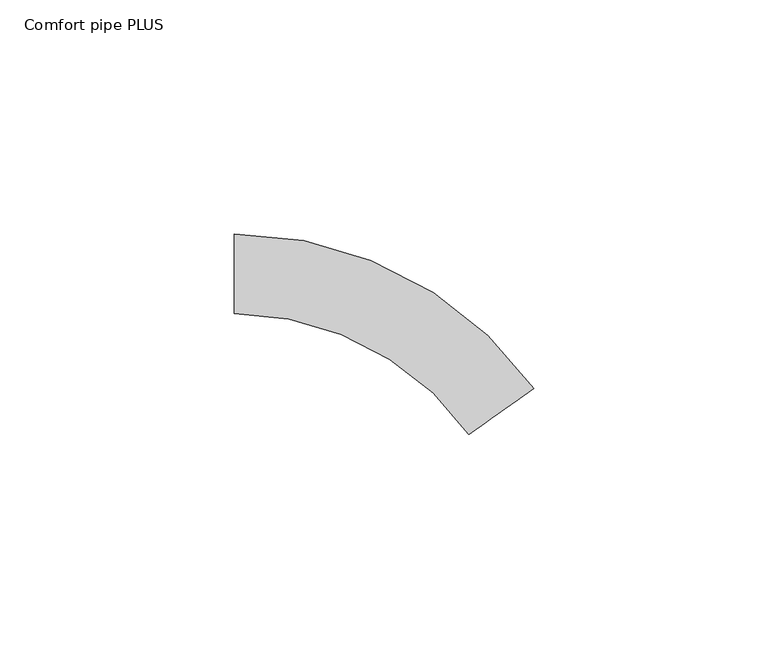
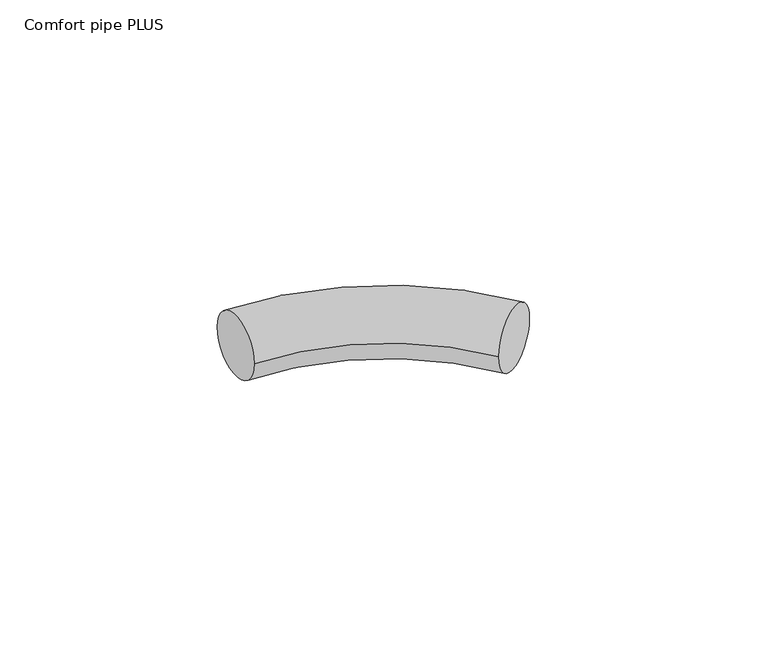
"""IFC4 building model written with IfcOpenShell, lengths in millimetres: pipe fitting geometry, 400_5-_Uponor_curved_Elbow : Comfort pipe PLUS."""

from ifc_helpers import new_model, si_unit, point, frame, origin, place, context, project, spatial, circle_curve, ellipse_curve, trimmed, source, transform, mapped, element, save
from ifc_brep_helpers import plane_surface, revolved_surface, advanced_brep


def comfort_pipe_plus_581880cc(model_context):
    return source(origin(), model_context, "Body", "AdvancedBrep", [
        advanced_brep(
        [(-36.0856303, 8.5, 0.0), (-36.0856303, -8.5, 0.0), (27.8566517, -24.4628222, 0.0), (14.0092786, -34.3243766, 0.0)],
        [
            (0, 1, circle_curve(frame((-36.0856303, 0.0, 0.0), z_axis=(-1.0, 0.0, 0.0), x_axis=(0.0, -1.0, 0.0)), 8.5)),
            (1, 0, circle_curve(frame((-36.0856303, 0.0, 0.0), z_axis=(-1.0, 0.0, 0.0), x_axis=(0.0, -1.0, 0.0)), 8.5)),
            (2, 3, circle_curve(frame((20.9329652, -29.3935994, 0.0), z_axis=(0.5800914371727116, -0.8145513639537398, 0.0), x_axis=(-0.8145513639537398, -0.5800914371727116, 0.0)), 8.5)),
            (3, 2, circle_curve(frame((20.9329652, -29.3935994, 0.0), z_axis=(0.5800914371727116, -0.8145513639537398, 0.0), x_axis=(-0.8145513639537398, -0.5800914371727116, 0.0)), 8.5)),
            (2, 0, circle_curve(frame((-36.0856303, -70.0, 0.0), z_axis=(0.0, 0.0, 1.0), x_axis=(0.0, 1.0, 0.0)), 78.5)),
            (1, 3, circle_curve(frame((-36.0856303, -70.0, 0.0), z_axis=(0.0, 0.0, -1.0), x_axis=(0.0, 1.0, 0.0)), 61.5)),
        ],
        [
            plane_surface(frame((-36.0856303, 0.0, 0.0), z_axis=(-1.0, 0.0, 0.0), x_axis=(0.0, 0.0, 1.0))),
            plane_surface(frame((20.9329652, -29.3935994, 0.0), z_axis=(0.5800914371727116, -0.81455136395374, 0.0), x_axis=(0.0, 0.0, 1.0))),
            revolved_surface(trimmed(ellipse_curve(frame((-36.0856303, 0.0, 0.0), z_axis=(1.0, 0.0, 0.0), x_axis=(0.0, -1.0, 0.0)), 8.5, 8.5), [point((-36.0856303, 8.5, 0.0))], [point((-36.0856303, -8.5, 0.0))], True, "CARTESIAN"), (-36.0856303, -70.0, 0.0), (0.0, 0.0, 1.0)),
            revolved_surface(trimmed(ellipse_curve(frame((-36.0856303, 0.0, 0.0), z_axis=(1.0, 0.0, 0.0), x_axis=(0.0, -1.0, 0.0)), 8.5, 8.5), [point((-36.0856303, -8.5, 0.0))], [point((-36.0856303, 8.5, 0.0))], True, "CARTESIAN"), (-36.0856303, -70.0, 0.0), (0.0, 0.0, 1.0)),
        ],
        [
            (0, [[1, 2]]),
            (1, [[3, 4]]),
            (2, [[-3, 5, -2, 6]]),
            (3, [[-4, -6, -1, -5]]),
        ],
    ),
    ])


if __name__ == "__main__":
    model = new_model("IFC4")
    model_context = context("Model", 3, world=origin())
    ifc_project = project(units=[si_unit("LENGTHUNIT", "METRE", prefix="MILLI")], contexts=[model_context])
    site = spatial("IfcSite", under=ifc_project)
    building = spatial("IfcBuilding", under=site)
    placement = place(None, origin())
    comfort_pipe_plus_shape = comfort_pipe_plus_581880cc(model_context)
    element("IfcPipeFitting", 1, ObjectType="400_5-_Uponor_curved_Elbow : Comfort pipe PLUS", at=placement, inside=building, context=model_context, shape_type="MappedRepresentation", body=[
        mapped(comfort_pipe_plus_shape, transform((0.0, 0.0, 0.0), x_axis=(1.0, 0.0, 0.0), y_axis=(0.0, 1.0, 0.0), z_axis=(0.0, 0.0, 1.0))),
    ])
    save(model, "model.ifc")
